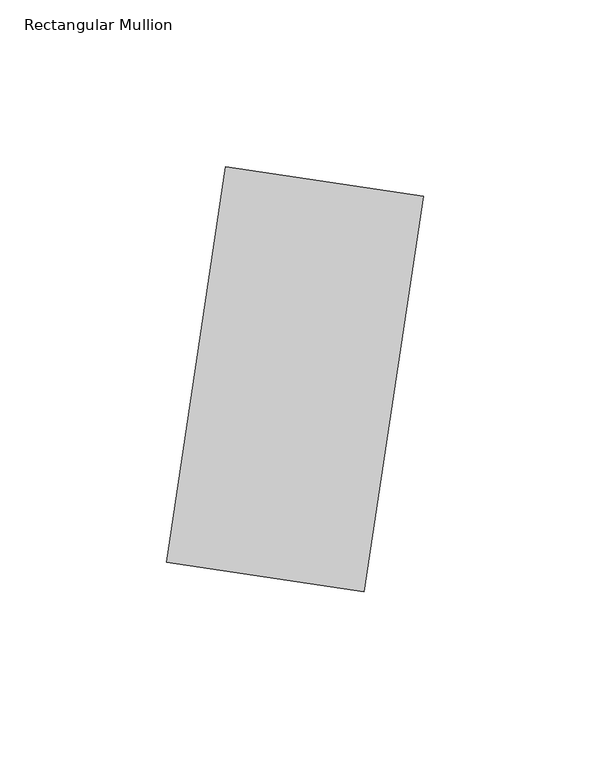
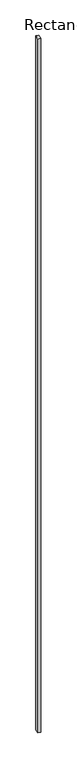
"""IFC4 building model written with IfcOpenShell, lengths in millimetres: member geometry, Rectangular Mullion : TERÇA 6x12 cm."""

from ifc_helpers import new_model, si_unit, frame, origin, place, context, project, spatial, polyline, outline, extrude, source, transform, mapped, element, save


def rectangular_mullion_e44f3b2a(model_context):
    return source(origin(), model_context, "Body", "SweptSolid", [
        extrude(outline(polyline([(-29.6680906, 4.4502136), (-11.8672362, 123.1225759), (47.4689449, 114.2221488), (29.6680906, -4.4502136), (-29.6680906, 4.4502136)])), frame((0.0, 0.0, -16295.0), z_axis=(0.0, 0.0, 1.0), x_axis=(1.0, 0.0, 0.0)), (0.0, 0.0, 1.0), 16295.0),
    ])


if __name__ == "__main__":
    model = new_model("IFC4")
    model_context = context("Model", 3, world=origin())
    ifc_project = project(units=[si_unit("LENGTHUNIT", "METRE", prefix="MILLI")], contexts=[model_context])
    site = spatial("IfcSite", under=ifc_project)
    building = spatial("IfcBuilding", under=site)
    placement = place(None, origin())
    rectangular_mullion_shape = rectangular_mullion_e44f3b2a(model_context)
    element("IfcMember", 1, ObjectType="Rectangular Mullion : TERÇA 6x12 cm", at=placement, inside=building, context=model_context, shape_type="MappedRepresentation", body=[
        mapped(rectangular_mullion_shape, transform((0.0, 0.0, 0.0), x_axis=(1.0, 0.0, 0.0), y_axis=(0.0, 1.0, 0.0), z_axis=(0.0, 0.0, 1.0))),
    ])
    save(model, "model.ifc")
